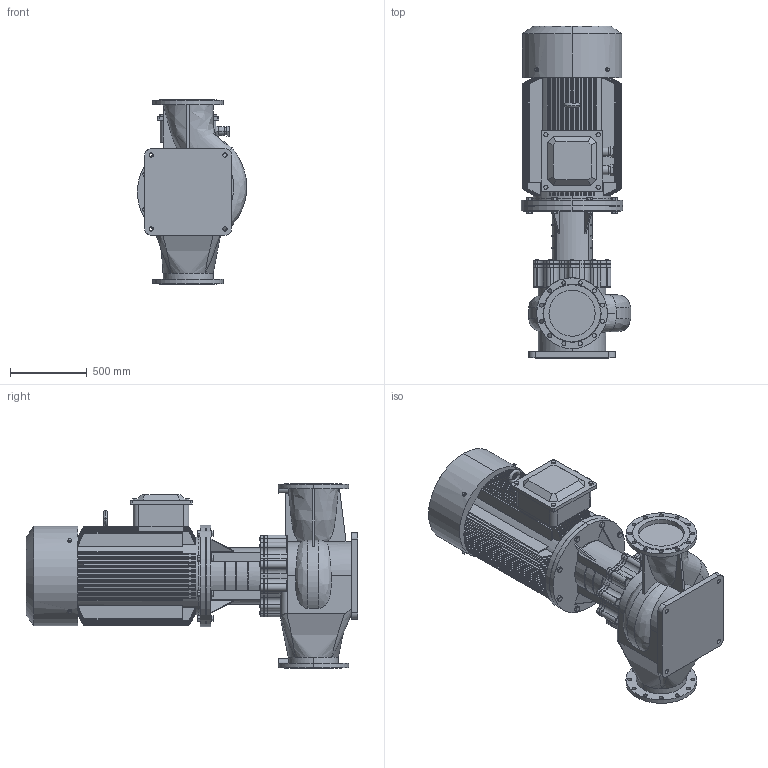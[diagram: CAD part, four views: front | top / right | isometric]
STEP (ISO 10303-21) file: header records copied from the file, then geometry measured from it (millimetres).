
FILE_DESCRIPTION (( 'STEP AP203' ), '1' );
FILE_NAME ('TD300-35G／4.STEP', '2026-09-07T03:40:41', ( '' ), ( '' ), 'SwSTEP 2.0', 'SolidWorks 2020', '' );
FILE_SCHEMA (( 'CONFIG_CONTROL_DESIGN' ));
Length unit declared in the file: millimetre
Products named in the file (1): TD300-35Gㄞ4
Bounding box: 711.39 x 2159 x 1200 mm (x, y, z)
Volume: 591275963.9 mm3; surface area: 15701130.7 mm2
Topology: 1 solids, 10 shells, 1879 faces, 4646 edges, 2902 vertices
Faces by surface type: plane 711, cone 574, cylinder 506, torus 48, bspline 40
Entity records: 79235 total; most frequent: CARTESIAN_POINT 35294, ORIENTED_EDGE 9292, DIRECTION 9066, EDGE_CURVE 4646, AXIS2_PLACEMENT_3D 3660, VERTEX_POINT 2902, EDGE_LOOP 2070, FACE_OUTER_BOUND 1879
